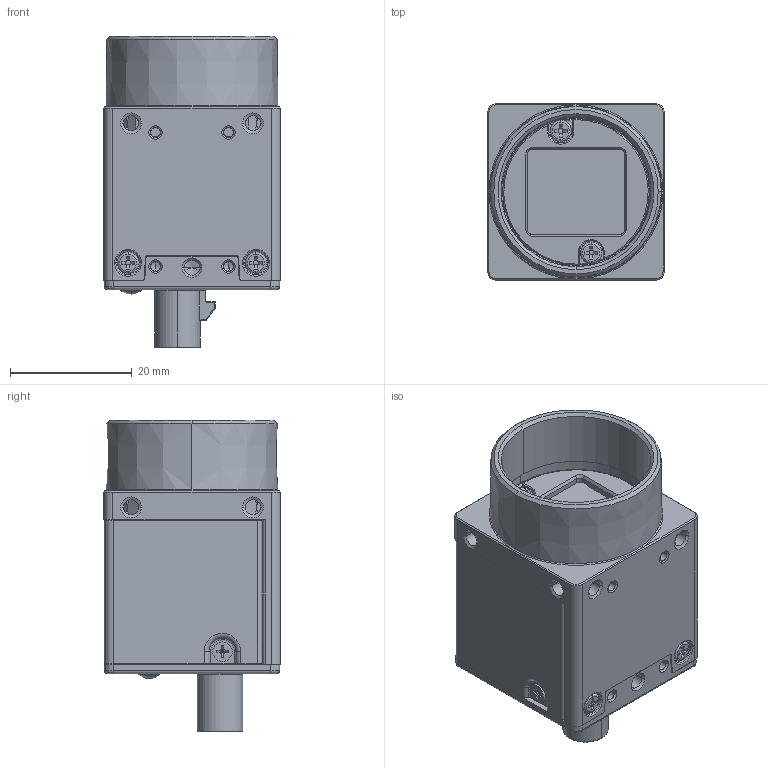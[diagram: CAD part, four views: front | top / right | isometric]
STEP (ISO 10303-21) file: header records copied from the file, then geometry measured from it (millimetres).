
FILE_DESCRIPTION((''),'2;1');
FILE_NAME('DH9-RDI000986-0000-LJ','2026-04-10T11:47:35',('401332'),(''),'CREO PARAMETRIC BY PTC INC, 2020184','CREO PARAMETRIC BY PTC INC, 2020184','');
FILE_SCHEMA(('CONFIG_CONTROL_DESIGN','SHAPE_APPEARANCE_LAYERS_GROUPS'));
Products named in the file (1): DH9-RDI000986-0000-LJ
Bounding box: 29 x 29 x 51.15 mm (x, y, z)
Volume: 8886 mm3; surface area: 14469.6 mm2
Topology: 1 solids, 7 shells, 1553 faces, 4170 edges, 2633 vertices
Faces by surface type: plane 776, cylinder 396, cone 178, torus 125, bspline 72, sphere 6
Entity records: 76606 total; most frequent: CARTESIAN_POINT 14169, ORIENTED_EDGE 8300, DIRECTION 7875, PRESENTATION_STYLE_ASSIGNMENT 5699, STYLED_ITEM 4151, CURVE_STYLE 4150, EDGE_CURVE 4150, AXIS2_PLACEMENT_3D 2750
